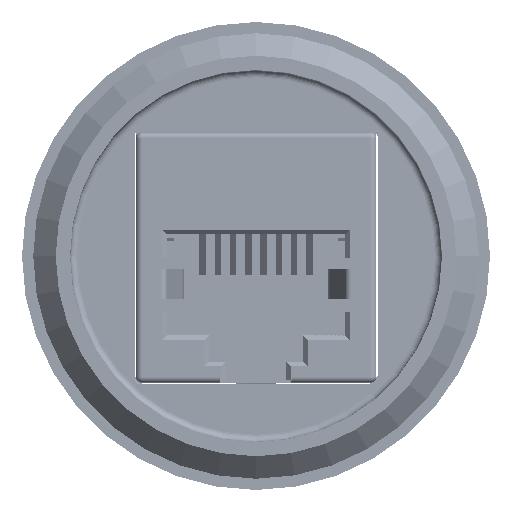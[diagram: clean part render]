
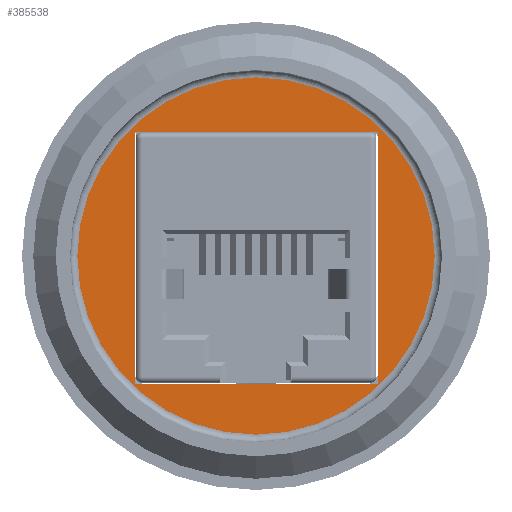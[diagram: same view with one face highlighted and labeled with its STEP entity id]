
A CAD part, front view. The second image highlights one B-rep face of the part: STEP entity #385538.
In plain terms, the highlighted planar face has unit normal (0, -1, 0).
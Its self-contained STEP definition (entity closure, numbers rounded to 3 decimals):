
#99452 = VERTEX_POINT('',#99453);
#99453 = CARTESIAN_POINT('',(-8.1,-6.5,8.25));
#99461 = EDGE_CURVE('',#99452,#99462,#99464,.T.);
#99462 = VERTEX_POINT('',#99463);
#99463 = CARTESIAN_POINT('',(-8.1,-6.5,-8.55));
#99464 = LINE('',#99465,#99466);
#99465 = CARTESIAN_POINT('',(-8.1,-6.5,-4.275));
#99466 = VECTOR('',#99467,1.);
#99467 = DIRECTION('',(0.,0.,-1.));
#100148 = EDGE_CURVE('',#99462,#100149,#100151,.T.);
#100149 = VERTEX_POINT('',#100150);
#100150 = CARTESIAN_POINT('',(8.1,-6.5,-8.55));
#100151 = LINE('',#100152,#100153);
#100152 = CARTESIAN_POINT('',(-4.05,-6.5,-8.55));
#100153 = VECTOR('',#100154,1.);
#100154 = DIRECTION('',(1.,0.,0.));
#101325 = VERTEX_POINT('',#101326);
#101326 = CARTESIAN_POINT('',(8.1,-6.5,8.25));
#101334 = EDGE_CURVE('',#101325,#100149,#101335,.T.);
#101335 = LINE('',#101336,#101337);
#101336 = CARTESIAN_POINT('',(8.1,-6.5,-4.275));
#101337 = VECTOR('',#101338,1.);
#101338 = DIRECTION('',(0.,0.,-1.));
#120508 = EDGE_CURVE('',#99452,#101325,#120509,.T.);
#120509 = LINE('',#120510,#120511);
#120510 = CARTESIAN_POINT('',(-4.05,-6.5,8.25));
#120511 = VECTOR('',#120512,1.);
#120512 = DIRECTION('',(1.,0.,0.));
#385538 = ADVANCED_FACE('',(#385539,#385550),#385556,.F.);
#385539 = FACE_BOUND('',#385540,.F.);
#385540 = EDGE_LOOP('',(#385541));
#385541 = ORIENTED_EDGE('',*,*,#385542,.T.);
#385542 = EDGE_CURVE('',#385543,#385543,#385545,.T.);
#385543 = VERTEX_POINT('',#385544);
#385544 = CARTESIAN_POINT('',(11.91,-6.5,0.));
#385545 = CIRCLE('',#385546,11.91);
#385546 = AXIS2_PLACEMENT_3D('',#385547,#385548,#385549);
#385547 = CARTESIAN_POINT('',(0.,-6.5,0.));
#385548 = DIRECTION('',(-0.,1.,0.));
#385549 = DIRECTION('',(1.,0.,0.));
#385550 = FACE_BOUND('',#385551,.F.);
#385551 = EDGE_LOOP('',(#385552,#385553,#385554,#385555));
#385552 = ORIENTED_EDGE('',*,*,#120508,.F.);
#385553 = ORIENTED_EDGE('',*,*,#99461,.T.);
#385554 = ORIENTED_EDGE('',*,*,#100148,.T.);
#385555 = ORIENTED_EDGE('',*,*,#101334,.F.);
#385556 = PLANE('',#385557);
#385557 = AXIS2_PLACEMENT_3D('',#385558,#385559,#385560);
#385558 = CARTESIAN_POINT('',(0.,-6.5,0.));
#385559 = DIRECTION('',(0.,1.,0.));
#385560 = DIRECTION('',(1.,0.,0.));
